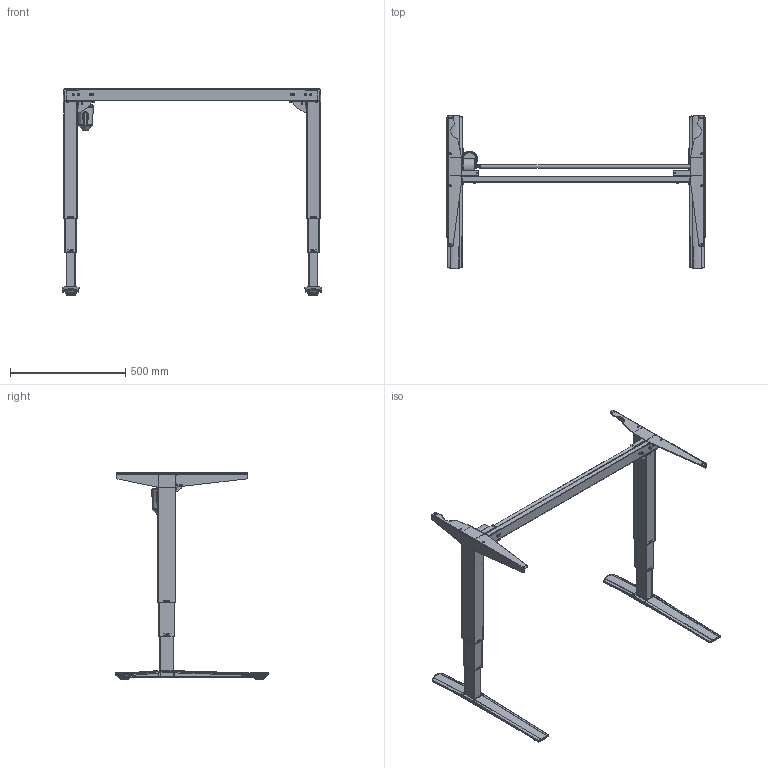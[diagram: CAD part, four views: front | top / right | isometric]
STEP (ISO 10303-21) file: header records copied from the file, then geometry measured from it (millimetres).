
FILE_DESCRIPTION (( 'STEP AP203' ), '1' );
FILE_NAME ('Tech-draw_501-43_XX112.STEP', '2019-09-25T11:15:05', ( '' ), ( '' ), 'SwSTEP 2.0', 'SolidWorks 2018', '' );
FILE_SCHEMA (( 'CONFIG_CONTROL_DESIGN' ));
Length unit declared in the file: millimetre
Products named in the file (34): 345200; 340560; Tech-draw_501-43_XX112; 141100_silver1; 347910_112; 134530_silver1; 324520_silver; 134470_silver1; 141090_silver; 340970; 344550; 347920_112; 340760; 341220; 141060_silver; 134500_silver1; 144260_112; 332570; 340540_shell view; 345190_shell view; 141070_silver; 340510_shell view; 341800_silver; 148880_501-43 XS112; 340520_shell view; 344430_silver; 352610; 340460_shell view; 344560; 340440; 141110_silver1; 141080_silver; 348720_shell view; 340450_shell view
Assembly tree (61 placements, depth 6):
  Tech-draw_501-43_XX112
    148880_501-43 XS112
      347910_112
      144260_112
        347920_112
        340560
        341220
      141070_silver
        134500_silver1
          340440
          340520_shell view
          348720_shell view
          344550
        141090_silver
          141110_silver1
            340460_shell view
            345190_shell view
            345200
          134530_silver1
            340450_shell view
          341800_silver  x4
        341800_silver  x4
        344430_silver
        324520_silver  x2
        352610
      141060_silver
        134470_silver1
          340970
          340510_shell view
          340540_shell view
          344560
        141080_silver
          141100_silver1
            340460_shell view
            345190_shell view
            345200
          134530_silver1
            340450_shell view
          341800_silver  x4
        341800_silver  x4
        324520_silver  x2
      340760  x4
      332570  x4
Bounding box: 1127 x 668.35 x 895.2 mm (x, y, z)
Volume: 2575009.6 mm3; surface area: 2761948 mm2
Topology: 50 solids, 50 shells, 3310 faces, 8617 edges, 5464 vertices
Faces by surface type: plane 1775, cylinder 953, bspline 454, cone 77, torus 51
Full cylindrical faces by diameter (mm): 2.8 x4, 3 x2, 4.6 x4, 5 x4, 6 x10, 7 x8, 7.4 x4, 7.6 x4, 8 x13, 8.05 x4, 10 x8, 11.9 x2, 12 x1, 13 x2, 15 x4, 16 x2, 18 x1, 20 x1, 37.6 x8, 60 x1
Entity records: 99427 total; most frequent: CARTESIAN_POINT 52308, ORIENTED_EDGE 9418, DIRECTION 8197, EDGE_CURVE 4709, VERTEX_POINT 3067, AXIS2_PLACEMENT_3D 2964, LINE 2269, VECTOR 2269
